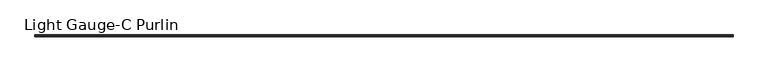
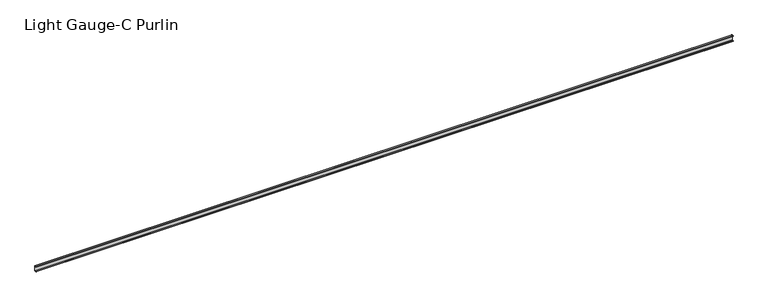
"""IFC4 building model written with IfcOpenShell, lengths in millimetres: beam geometry, Light Gauge-C Purlin : Metsec-202C20."""

from ifc_helpers import new_model, si_unit, point, frame, frame_2d, origin, place, context, project, spatial, polyline, circle_curve, trimmed, segment, composite_curve, outline, extrude, source, transform, mapped, element, save


def light_gauge_c_purlin_6e397828(model_context):
    return source(origin(), model_context, "Body", "SweptSolid", [
        extrude(outline(composite_curve([segment(trimmed(circle_curve(frame_2d((-46.7, 97.0)), 4.0), [point((-50.7, 97.0))], [point((-46.7, 101.0))], False, "CARTESIAN"), True, "CONTINUOUS"), segment(polyline([(-46.7, 101.0), (14.3, 101.0)]), True, "CONTINUOUS"), segment(trimmed(circle_curve(frame_2d((14.3, 97.0)), 4.0), [point((14.3, 101.0))], [point((18.3, 97.0))], False, "CARTESIAN"), True, "CONTINUOUS"), segment(polyline([(18.3, 97.0), (18.3, -97.0)]), True, "CONTINUOUS"), segment(trimmed(circle_curve(frame_2d((14.3, -97.0)), 4.0), [point((18.3, -97.0))], [point((14.3, -101.0))], False, "CARTESIAN"), True, "CONTINUOUS"), segment(polyline([(14.3, -101.0), (-46.7, -101.0)]), True, "CONTINUOUS"), segment(trimmed(circle_curve(frame_2d((-46.7, -97.0)), 4.0), [point((-46.7, -101.0))], [point((-50.7, -97.0))], False, "CARTESIAN"), True, "CONTINUOUS"), segment(polyline([(-50.7, -97.0), (-50.7, -87.0), (-48.7, -87.0), (-48.7, -97.0)]), True, "CONTINUOUS"), segment(trimmed(circle_curve(frame_2d((-46.7, -97.0)), 2.0), [point((-48.7, -97.0))], [point((-46.7, -99.0))], True, "CARTESIAN"), True, "CONTINUOUS"), segment(polyline([(-46.7, -99.0), (14.3, -99.0)]), True, "CONTINUOUS"), segment(trimmed(circle_curve(frame_2d((14.3, -97.0)), 2.0), [point((14.3, -99.0))], [point((16.3, -97.0))], True, "CARTESIAN"), True, "CONTINUOUS"), segment(polyline([(16.3, -97.0), (16.3, 97.0)]), True, "CONTINUOUS"), segment(trimmed(circle_curve(frame_2d((14.3, 97.0)), 2.0), [point((16.3, 97.0))], [point((14.3, 99.0))], True, "CARTESIAN"), True, "CONTINUOUS"), segment(polyline([(14.3, 99.0), (-46.7, 99.0)]), True, "CONTINUOUS"), segment(trimmed(circle_curve(frame_2d((-46.7, 97.0)), 2.0), [point((-46.7, 99.0))], [point((-48.7, 97.0))], True, "CARTESIAN"), True, "CONTINUOUS"), segment(polyline([(-48.7, 97.0), (-48.7, 87.0), (-50.7, 87.0), (-50.7, 97.0)]), True, "CONTINUOUS")], self_intersect=False)), frame((-12982.0, 0.0, 0.0), z_axis=(1.0, 0.0, 0.0), x_axis=(0.0, 1.0, 0.0)), (0.0, 0.0, 1.0), 25954.0),
    ])


if __name__ == "__main__":
    model = new_model("IFC4")
    model_context = context("Model", 3, world=origin())
    ifc_project = project(units=[si_unit("LENGTHUNIT", "METRE", prefix="MILLI")], contexts=[model_context])
    site = spatial("IfcSite", under=ifc_project)
    building = spatial("IfcBuilding", under=site)
    placement = place(None, origin())
    light_gauge_c_purlin_shape = light_gauge_c_purlin_6e397828(model_context)
    element("IfcBeam", 1, ObjectType="Light Gauge-C Purlin : Metsec-202C20", at=placement, inside=building, context=model_context, shape_type="MappedRepresentation", body=[
        mapped(light_gauge_c_purlin_shape, transform((0.0, 0.0, 0.0), x_axis=(1.0, 0.0, 0.0), y_axis=(0.0, 1.0, 0.0), z_axis=(0.0, 0.0, 1.0))),
    ])
    save(model, "model.ifc")
